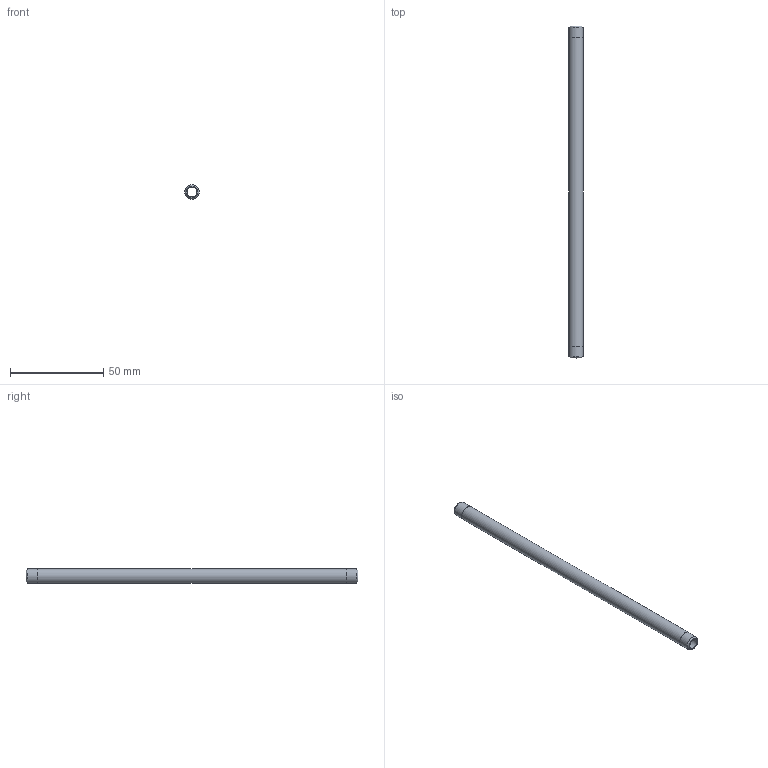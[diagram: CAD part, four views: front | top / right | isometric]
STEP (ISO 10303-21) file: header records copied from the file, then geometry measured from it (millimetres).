
FILE_DESCRIPTION(/* description */ (''),/* implementation_level */ '2;1');
FILE_NAME(/* name */ 'C:/Users/drich/Desktop/BPN16-7 v1.step',/* time_stamp */ '2020-01-03T14:46:45-06:00',/* author */ (''),/* organization */ (''),/* preprocessor_version */ 'ST-DEVELOPER v18',/* originating_system */ 'Autodesk Translation Framework v8.12.0.6',/* authorisation */ '');
FILE_SCHEMA (('AUTOMOTIVE_DESIGN { 1 0 10303 214 3 1 1 }'));
Length unit declared in the file: inch
Products named in the file (1): BPN16-7
Bounding box: 7.92 x 177.8 x 7.92 mm (x, y, z)
Volume: 4813.2 mm3; surface area: 7420.6 mm2
Topology: 1 solids, 1 shells, 10 faces, 24 edges, 18 vertices
Faces by surface type: cylinder 4, plane 4, cone 2
Full cylindrical faces by diameter (mm): 5.309 x1, 7.874 x2, 7.925 x1
Entity records: 360 total; most frequent: DIRECTION 64, CARTESIAN_POINT 53, ORIENTED_EDGE 48, AXIS2_PLACEMENT_3D 29, EDGE_CURVE 24, CIRCLE 18, VERTEX_POINT 18, EDGE_LOOP 14
